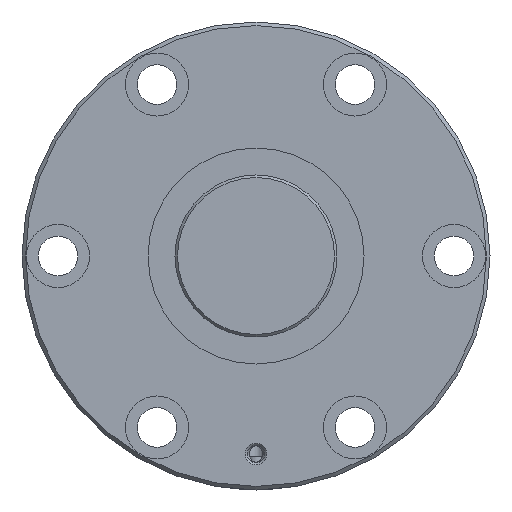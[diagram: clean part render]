
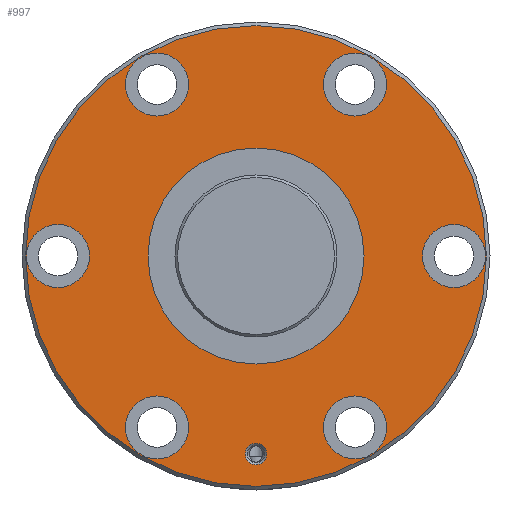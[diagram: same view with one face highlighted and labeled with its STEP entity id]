
A CAD part, left-side view. The second image highlights one B-rep face of the part: STEP entity #997.
In plain terms, the highlighted planar face has unit normal (-1, 0, 0).
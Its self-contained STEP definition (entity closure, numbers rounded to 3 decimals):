
#155=ORIENTED_EDGE('',*,*,#368,.T.);
#156=ORIENTED_EDGE('',*,*,#369,.T.);
#157=ORIENTED_EDGE('',*,*,#370,.T.);
#158=ORIENTED_EDGE('',*,*,#371,.T.);
#159=ORIENTED_EDGE('',*,*,#372,.T.);
#160=ORIENTED_EDGE('',*,*,#373,.T.);
#161=ORIENTED_EDGE('',*,*,#374,.T.);
#162=ORIENTED_EDGE('',*,*,#375,.T.);
#163=ORIENTED_EDGE('',*,*,#367,.F.);
#367=EDGE_CURVE('',#477,#477,#570,.T.);
#368=EDGE_CURVE('',#478,#478,#571,.T.);
#369=EDGE_CURVE('',#479,#479,#572,.F.);
#370=EDGE_CURVE('',#480,#480,#573,.T.);
#371=EDGE_CURVE('',#481,#481,#574,.T.);
#372=EDGE_CURVE('',#482,#482,#575,.T.);
#373=EDGE_CURVE('',#483,#483,#576,.T.);
#374=EDGE_CURVE('',#484,#484,#577,.T.);
#375=EDGE_CURVE('',#485,#485,#578,.T.);
#477=VERTEX_POINT('',#1668);
#478=VERTEX_POINT('',#1671);
#479=VERTEX_POINT('',#1673);
#480=VERTEX_POINT('',#1675);
#481=VERTEX_POINT('',#1677);
#482=VERTEX_POINT('',#1679);
#483=VERTEX_POINT('',#1681);
#484=VERTEX_POINT('',#1683);
#485=VERTEX_POINT('',#1685);
#570=CIRCLE('',#1111,64.);
#571=CIRCLE('',#1113,30.);
#572=CIRCLE('',#1114,8.75);
#573=CIRCLE('',#1115,3.);
#574=CIRCLE('',#1116,8.75);
#575=CIRCLE('',#1117,8.75);
#576=CIRCLE('',#1118,8.75);
#577=CIRCLE('',#1119,8.75);
#578=CIRCLE('',#1120,8.75);
#658=EDGE_LOOP('',(#155));
#659=EDGE_LOOP('',(#156));
#660=EDGE_LOOP('',(#157));
#661=EDGE_LOOP('',(#158));
#662=EDGE_LOOP('',(#159));
#663=EDGE_LOOP('',(#160));
#664=EDGE_LOOP('',(#161));
#665=EDGE_LOOP('',(#162));
#666=EDGE_LOOP('',(#163));
#818=FACE_BOUND('',#658,.T.);
#819=FACE_BOUND('',#659,.T.);
#820=FACE_BOUND('',#660,.T.);
#821=FACE_BOUND('',#661,.T.);
#822=FACE_BOUND('',#662,.T.);
#823=FACE_BOUND('',#663,.T.);
#824=FACE_BOUND('',#664,.T.);
#825=FACE_BOUND('',#665,.T.);
#826=FACE_BOUND('',#666,.T.);
#960=PLANE('',#1112);
#997=ADVANCED_FACE('',(#818,#819,#820,#821,#822,#823,#824,#825,#826),#960,
 .T.);
#1111=AXIS2_PLACEMENT_3D('',#1667,#1295,#1296);
#1112=AXIS2_PLACEMENT_3D('',#1669,#1297,#1298);
#1113=AXIS2_PLACEMENT_3D('',#1670,#1299,#1300);
#1114=AXIS2_PLACEMENT_3D('',#1672,#1301,#1302);
#1115=AXIS2_PLACEMENT_3D('',#1674,#1303,#1304);
#1116=AXIS2_PLACEMENT_3D('',#1676,#1305,#1306);
#1117=AXIS2_PLACEMENT_3D('',#1678,#1307,#1308);
#1118=AXIS2_PLACEMENT_3D('',#1680,#1309,#1310);
#1119=AXIS2_PLACEMENT_3D('',#1682,#1311,#1312);
#1120=AXIS2_PLACEMENT_3D('',#1684,#1313,#1314);
#1295=DIRECTION('',(1.,0.,0.));
#1296=DIRECTION('',(0.,0.,-1.));
#1297=DIRECTION('',(-1.,0.,0.));
#1298=DIRECTION('',(0.,0.,1.));
#1299=DIRECTION('',(1.,0.,0.));
#1300=DIRECTION('',(0.,0.,-1.));
#1301=DIRECTION('',(-1.,0.,0.));
#1302=DIRECTION('',(0.,0.,1.));
#1303=DIRECTION('',(1.,0.,0.));
#1304=DIRECTION('',(0.,0.,-1.));
#1305=DIRECTION('',(1.,0.,0.));
#1306=DIRECTION('',(0.,0.,-1.));
#1307=DIRECTION('',(1.,0.,0.));
#1308=DIRECTION('',(0.,0.,-1.));
#1309=DIRECTION('',(1.,0.,0.));
#1310=DIRECTION('',(0.,0.,-1.));
#1311=DIRECTION('',(1.,0.,0.));
#1312=DIRECTION('',(0.,0.,-1.));
#1313=DIRECTION('',(1.,0.,0.));
#1314=DIRECTION('',(0.,0.,-1.));
#1667=CARTESIAN_POINT('',(0.,0.,0.));
#1668=CARTESIAN_POINT('',(0.,0.,-64.));
#1669=CARTESIAN_POINT('',(0.,64.,0.));
#1670=CARTESIAN_POINT('',(0.,0.,0.));
#1671=CARTESIAN_POINT('',(0.,0.,-30.));
#1672=CARTESIAN_POINT('',(0.,55.,0.));
#1673=CARTESIAN_POINT('',(0.,55.,8.75));
#1674=CARTESIAN_POINT('',(0.,0.,-55.));
#1675=CARTESIAN_POINT('',(0.,0.,-58.));
#1676=CARTESIAN_POINT('',(0.,-55.,0.));
#1677=CARTESIAN_POINT('',(0.,-55.,-8.75));
#1678=CARTESIAN_POINT('',(0.,27.5,47.631));
#1679=CARTESIAN_POINT('',(0.,27.5,38.881));
#1680=CARTESIAN_POINT('',(0.,-27.5,-47.631));
#1681=CARTESIAN_POINT('',(0.,-27.5,-56.381));
#1682=CARTESIAN_POINT('',(0.,-27.5,47.631));
#1683=CARTESIAN_POINT('',(0.,-27.5,38.881));
#1684=CARTESIAN_POINT('',(0.,27.5,-47.631));
#1685=CARTESIAN_POINT('',(0.,27.5,-56.381));
